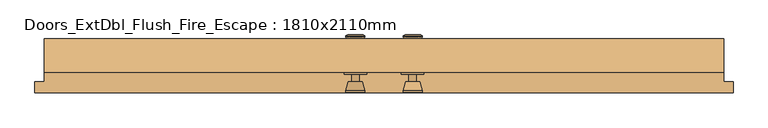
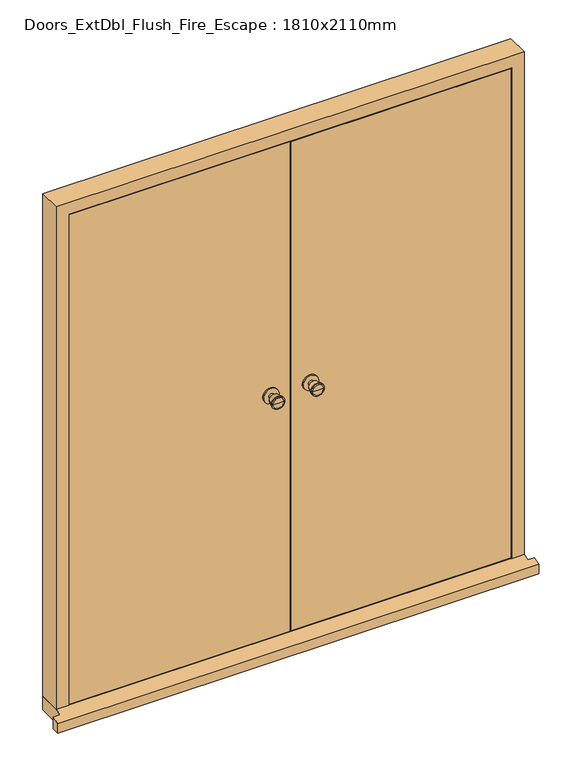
"""IFC4 building model written with IfcOpenShell, lengths in millimetres: door geometry, Doors_ExtDbl_Flush_Fire_Escape : 1810x2110mm."""

from ifc_helpers import new_model, si_unit, point, frame, frame_2d, origin, place, context, project, spatial, polyline, circle_curve, trimmed, segment, composite_curve, outline, extrude, faceted_brep, source, transform, mapped, element, save
from ifc_brep_helpers import plane_surface, cylinder_surface, revolved_surface, advanced_brep


def doors_extdbl_flush_fire_escape_1810x2110mm_d119a109(model_context):
    return source(origin(), model_context, "Body", "SolidModel", [
        advanced_brep(
        [(-76.5, -89.0, 1050.0), (-66.5, -89.0, 1050.0), (-86.5, -89.0, 1050.0), (-96.9758676, -138.0, 1050.0), (-56.0241324, -138.0, 1050.0), (-76.5, -138.0, 1050.0), (-101.5, -136.1721319, 1050.0), (-51.5, -136.1721319, 1050.0), (-101.5, -132.7084537, 1050.0), (-51.5, -132.7084537, 1050.0), (-95.136236, -108.0, 1050.0), (-57.863764, -108.0, 1050.0), (-86.5, -108.0, 1050.0), (-66.5, -108.0, 1050.0)],
        [
            (0, 1),
            (1, 2, circle_curve(frame((-76.5, -89.0, 1050.0), z_axis=(0.0, 1.0, 0.0), x_axis=(1.0, 0.0, 0.0)), 10.0)),
            (2, 0),
            (2, 1, circle_curve(frame((-76.5, -89.0, 1050.0), z_axis=(0.0, 1.0, 0.0), x_axis=(1.0, 0.0, 0.0)), 10.0)),
            (3, 4, circle_curve(frame((-76.5, -138.0, 1050.0), z_axis=(0.0, -1.0, 0.0), x_axis=(1.0, 0.0, 0.0)), 20.4758676)),
            (4, 5),
            (5, 3),
            (4, 3, circle_curve(frame((-76.5, -138.0, 1050.0), z_axis=(0.0, -1.0, 0.0), x_axis=(1.0, 0.0, 0.0)), 20.4758676)),
            (6, 7, circle_curve(frame((-76.5, -136.1721319, 1050.0), z_axis=(0.0, -1.0, 0.0), x_axis=(1.0, 0.0, 0.0)), 25.0)),
            (7, 4),
            (3, 6),
            (7, 6, circle_curve(frame((-76.5, -136.1721319, 1050.0), z_axis=(0.0, -1.0, 0.0), x_axis=(1.0, 0.0, 0.0)), 25.0)),
            (8, 9, circle_curve(frame((-76.5, -132.7084537, 1050.0), z_axis=(0.0, -1.0, 0.0), x_axis=(1.0, 0.0, 0.0)), 25.0)),
            (9, 7),
            (6, 8),
            (9, 8, circle_curve(frame((-76.5, -132.7084537, 1050.0), z_axis=(0.0, -1.0, 0.0), x_axis=(1.0, 0.0, 0.0)), 25.0)),
            (10, 11, circle_curve(frame((-76.5, -108.0, 1050.0), z_axis=(0.0, -1.0, 0.0), x_axis=(1.0, 0.0, 0.0)), 18.636236)),
            (11, 9),
            (8, 10),
            (11, 10, circle_curve(frame((-76.5, -108.0, 1050.0), z_axis=(0.0, -1.0, 0.0), x_axis=(1.0, 0.0, 0.0)), 18.636236)),
            (12, 13, circle_curve(frame((-76.5, -108.0, 1050.0), z_axis=(0.0, -1.0, 0.0), x_axis=(1.0, 0.0, 0.0)), 10.0)),
            (13, 11),
            (10, 12),
            (13, 12, circle_curve(frame((-76.5, -108.0, 1050.0), z_axis=(0.0, -1.0, 0.0), x_axis=(1.0, 0.0, 0.0)), 10.0)),
            (1, 13),
            (12, 2),
        ],
        [
            plane_surface(frame((-76.5, -89.0, 1050.0), z_axis=(0.0, 1.0, 0.0), x_axis=(1.0, 0.0, 0.0))),
            plane_surface(frame((-76.5, -138.0, 1050.0), z_axis=(0.0, -1.0, 0.0), x_axis=(1.0, 0.0, 0.0))),
            revolved_surface(polyline([(-56.0241324, -138.0, 1050.0), (-51.5, -136.1721319, 1050.0)]), (-76.5, -89.0, 1050.0), (0.0, 1.0, 0.0)),
            cylinder_surface(frame((-76.5, -89.0, 1050.0), z_axis=(0.0, 1.0, 0.0), x_axis=(1.0, 0.0, 0.0)), 25.0),
            revolved_surface(polyline([(-51.5, -132.7084537, 1050.0), (-57.863764, -108.0, 1050.0)]), (-76.5, -89.0, 1050.0), (0.0, 1.0, 0.0)),
            plane_surface(frame((-76.5, -108.0, 1050.0), z_axis=(0.0, 1.0, 0.0), x_axis=(1.0, 0.0, 0.0))),
            cylinder_surface(frame((-76.5, -89.0, 1050.0), z_axis=(0.0, 1.0, 0.0), x_axis=(1.0, 0.0, 0.0)), 10.0),
        ],
        [
            (0, [[1, 2, 3]]),
            (0, [[-3, 4, -1]]),
            (1, [[5, 6, 7]]),
            (1, [[8, -7, -6]]),
            (2, [[9, 10, -5, 11]]),
            (2, [[12, -11, -8, -10]]),
            (3, [[13, 14, -9, 15]]),
            (3, [[16, -15, -12, -14]]),
            (4, [[17, 18, -13, 19]]),
            (4, [[20, -19, -16, -18]]),
            (5, [[21, 22, -17, 23]]),
            (5, [[24, -23, -20, -22]]),
            (6, [[-2, 25, -21, 26]]),
            (6, [[-4, -26, -24, -25]]),
        ],
    ),
        extrude(outline(composite_curve([segment(trimmed(circle_curve(frame_2d((1050.0, -76.5)), 30.0), [point((1050.0, -46.5))], [point((1050.0, -106.5))], False, "CARTESIAN"), True, "CONTINUOUS"), segment(trimmed(circle_curve(frame_2d((1050.0, -76.5)), 30.0), [point((1050.0, -106.5))], [point((1050.0, -46.5))], False, "CARTESIAN"), True, "CONTINUOUS")], self_intersect=False)), frame((0.0, -89.0, 0.0), z_axis=(0.0, 1.0, 0.0), x_axis=(0.0, 0.0, 1.0)), (0.0, 0.0, 1.0), 6.0),
        advanced_brep(
        [(-76.5, -33.0, 1050.0), (-86.5, -33.0, 1050.0), (-66.5, -33.0, 1050.0), (-96.9758676, 16.0, 1050.0), (-76.5, 16.0, 1050.0), (-56.0241324, 16.0, 1050.0), (-101.5, 14.1721319, 1050.0), (-51.5, 14.1721319, 1050.0), (-101.5, 10.7084537, 1050.0), (-51.5, 10.7084537, 1050.0), (-95.136236, -14.0, 1050.0), (-57.863764, -14.0, 1050.0), (-86.5, -14.0, 1050.0), (-66.5, -14.0, 1050.0)],
        [
            (0, 1),
            (1, 2, circle_curve(frame((-76.5, -33.0, 1050.0), z_axis=(0.0, -1.0, 0.0), x_axis=(1.0, 0.0, 0.0)), 10.0)),
            (2, 0),
            (2, 1, circle_curve(frame((-76.5, -33.0, 1050.0), z_axis=(0.0, -1.0, 0.0), x_axis=(1.0, 0.0, 0.0)), 10.0)),
            (3, 4),
            (4, 5),
            (5, 3, circle_curve(frame((-76.5, 16.0, 1050.0), z_axis=(0.0, 1.0, 0.0), x_axis=(1.0, 0.0, 0.0)), 20.4758676)),
            (3, 5, circle_curve(frame((-76.5, 16.0, 1050.0), z_axis=(0.0, 1.0, 0.0), x_axis=(1.0, 0.0, 0.0)), 20.4758676)),
            (6, 3),
            (5, 7),
            (7, 6, circle_curve(frame((-76.5, 14.1721319, 1050.0), z_axis=(0.0, 1.0, 0.0), x_axis=(1.0, 0.0, 0.0)), 25.0)),
            (6, 7, circle_curve(frame((-76.5, 14.1721319, 1050.0), z_axis=(0.0, 1.0, 0.0), x_axis=(1.0, 0.0, 0.0)), 25.0)),
            (8, 6),
            (7, 9),
            (9, 8, circle_curve(frame((-76.5, 10.7084537, 1050.0), z_axis=(0.0, 1.0, 0.0), x_axis=(1.0, 0.0, 0.0)), 25.0)),
            (8, 9, circle_curve(frame((-76.5, 10.7084537, 1050.0), z_axis=(0.0, 1.0, 0.0), x_axis=(1.0, 0.0, 0.0)), 25.0)),
            (10, 8),
            (9, 11),
            (11, 10, circle_curve(frame((-76.5, -14.0, 1050.0), z_axis=(0.0, 1.0, 0.0), x_axis=(1.0, 0.0, 0.0)), 18.636236)),
            (10, 11, circle_curve(frame((-76.5, -14.0, 1050.0), z_axis=(0.0, 1.0, 0.0), x_axis=(1.0, 0.0, 0.0)), 18.636236)),
            (12, 10),
            (11, 13),
            (13, 12, circle_curve(frame((-76.5, -14.0, 1050.0), z_axis=(0.0, 1.0, 0.0), x_axis=(1.0, 0.0, 0.0)), 10.0)),
            (12, 13, circle_curve(frame((-76.5, -14.0, 1050.0), z_axis=(0.0, 1.0, 0.0), x_axis=(1.0, 0.0, 0.0)), 10.0)),
            (1, 12),
            (13, 2),
        ],
        [
            plane_surface(frame((-76.5, -33.0, 1050.0), z_axis=(0.0, -1.0, 0.0), x_axis=(1.0, 0.0, 0.0))),
            plane_surface(frame((-76.5, 16.0, 1050.0), z_axis=(0.0, 1.0, 0.0), x_axis=(1.0, 0.0, 0.0))),
            revolved_surface(polyline([(-56.0241324, 16.0, 1050.0), (-51.5, 14.1721319, 1050.0)]), (-76.5, -33.0, 1050.0), (0.0, -1.0, 0.0)),
            cylinder_surface(frame((-76.5, -33.0, 1050.0), z_axis=(0.0, -1.0, 0.0), x_axis=(1.0, 0.0, 0.0)), 25.0),
            revolved_surface(polyline([(-51.5, 10.7084537, 1050.0), (-57.863764, -14.0, 1050.0)]), (-76.5, -33.0, 1050.0), (0.0, -1.0, 0.0)),
            plane_surface(frame((-76.5, -14.0, 1050.0), z_axis=(0.0, -1.0, 0.0), x_axis=(1.0, 0.0, 0.0))),
            cylinder_surface(frame((-76.5, -33.0, 1050.0), z_axis=(0.0, -1.0, 0.0), x_axis=(1.0, 0.0, 0.0)), 10.0),
        ],
        [
            (0, [[1, 2, 3]]),
            (0, [[-3, 4, -1]]),
            (1, [[5, 6, 7]]),
            (1, [[-6, -5, 8]]),
            (2, [[9, -7, 10, 11]]),
            (2, [[-10, -8, -9, 12]]),
            (3, [[13, -11, 14, 15]]),
            (3, [[-14, -12, -13, 16]]),
            (4, [[17, -15, 18, 19]]),
            (4, [[-18, -16, -17, 20]]),
            (5, [[21, -19, 22, 23]]),
            (5, [[-22, -20, -21, 24]]),
            (6, [[25, -23, 26, -2]]),
            (6, [[-26, -24, -25, -4]]),
        ],
    ),
        extrude(outline(composite_curve([segment(trimmed(circle_curve(frame_2d((1050.0, -76.5)), 30.0), [point((1050.0, -46.5))], [point((1050.0, -106.5))], False, "CARTESIAN"), True, "CONTINUOUS"), segment(trimmed(circle_curve(frame_2d((1050.0, -76.5)), 30.0), [point((1050.0, -106.5))], [point((1050.0, -46.5))], False, "CARTESIAN"), True, "CONTINUOUS")], self_intersect=False)), frame((0.0, -39.0, 0.0), z_axis=(0.0, 1.0, 0.0), x_axis=(0.0, 0.0, 1.0)), (0.0, 0.0, 1.0), 6.0),
        advanced_brep(
        [(76.5, -89.0, 1050.0), (86.5, -89.0, 1050.0), (66.5, -89.0, 1050.0), (96.9758676, -138.0, 1050.0), (76.5, -138.0, 1050.0), (56.0241324, -138.0, 1050.0), (101.5, -136.1721319, 1050.0), (51.5, -136.1721319, 1050.0), (101.5, -132.7084537, 1050.0), (51.5, -132.7084537, 1050.0), (95.136236, -108.0, 1050.0), (57.863764, -108.0, 1050.0), (86.5, -108.0, 1050.0), (66.5, -108.0, 1050.0)],
        [
            (0, 1),
            (1, 2, circle_curve(frame((76.5, -89.0, 1050.0), z_axis=(0.0, 1.0, 0.0), x_axis=(-1.0, 0.0, 0.0)), 10.0)),
            (2, 0),
            (2, 1, circle_curve(frame((76.5, -89.0, 1050.0), z_axis=(0.0, 1.0, 0.0), x_axis=(-1.0, 0.0, 0.0)), 10.0)),
            (3, 4),
            (4, 5),
            (5, 3, circle_curve(frame((76.5, -138.0, 1050.0), z_axis=(0.0, -1.0, 0.0), x_axis=(-1.0, 0.0, 0.0)), 20.4758676)),
            (3, 5, circle_curve(frame((76.5, -138.0, 1050.0), z_axis=(0.0, -1.0, 0.0), x_axis=(-1.0, 0.0, 0.0)), 20.4758676)),
            (6, 3),
            (5, 7),
            (7, 6, circle_curve(frame((76.5, -136.1721319, 1050.0), z_axis=(0.0, -1.0, 0.0), x_axis=(-1.0, 0.0, 0.0)), 25.0)),
            (6, 7, circle_curve(frame((76.5, -136.1721319, 1050.0), z_axis=(0.0, -1.0, 0.0), x_axis=(-1.0, 0.0, 0.0)), 25.0)),
            (8, 6),
            (7, 9),
            (9, 8, circle_curve(frame((76.5, -132.7084537, 1050.0), z_axis=(0.0, -1.0, 0.0), x_axis=(-1.0, 0.0, 0.0)), 25.0)),
            (8, 9, circle_curve(frame((76.5, -132.7084537, 1050.0), z_axis=(0.0, -1.0, 0.0), x_axis=(-1.0, 0.0, 0.0)), 25.0)),
            (10, 8),
            (9, 11),
            (11, 10, circle_curve(frame((76.5, -108.0, 1050.0), z_axis=(0.0, -1.0, 0.0), x_axis=(-1.0, 0.0, 0.0)), 18.636236)),
            (10, 11, circle_curve(frame((76.5, -108.0, 1050.0), z_axis=(0.0, -1.0, 0.0), x_axis=(-1.0, 0.0, 0.0)), 18.636236)),
            (12, 10),
            (11, 13),
            (13, 12, circle_curve(frame((76.5, -108.0, 1050.0), z_axis=(0.0, -1.0, 0.0), x_axis=(-1.0, 0.0, 0.0)), 10.0)),
            (12, 13, circle_curve(frame((76.5, -108.0, 1050.0), z_axis=(0.0, -1.0, 0.0), x_axis=(-1.0, 0.0, 0.0)), 10.0)),
            (1, 12),
            (13, 2),
        ],
        [
            plane_surface(frame((76.5, -89.0, 1050.0), z_axis=(0.0, 1.0, 0.0), x_axis=(-1.0, 0.0, 0.0))),
            plane_surface(frame((76.5, -138.0, 1050.0), z_axis=(0.0, -1.0, 0.0), x_axis=(-1.0, 0.0, 0.0))),
            revolved_surface(polyline([(56.0241324, -138.0, 1050.0), (51.5, -136.1721319, 1050.0)]), (76.5, -89.0, 1050.0), (0.0, 1.0, 0.0)),
            cylinder_surface(frame((76.5, -89.0, 1050.0), z_axis=(0.0, 1.0, 0.0), x_axis=(-1.0, 0.0, 0.0)), 25.0),
            revolved_surface(polyline([(51.5, -132.7084537, 1050.0), (57.863764, -108.0, 1050.0)]), (76.5, -89.0, 1050.0), (0.0, 1.0, 0.0)),
            plane_surface(frame((76.5, -108.0, 1050.0), z_axis=(0.0, 1.0, 0.0), x_axis=(-1.0, 0.0, 0.0))),
            cylinder_surface(frame((76.5, -89.0, 1050.0), z_axis=(0.0, 1.0, 0.0), x_axis=(-1.0, 0.0, 0.0)), 10.0),
        ],
        [
            (0, [[1, 2, 3]]),
            (0, [[-3, 4, -1]]),
            (1, [[5, 6, 7]]),
            (1, [[-6, -5, 8]]),
            (2, [[9, -7, 10, 11]]),
            (2, [[-10, -8, -9, 12]]),
            (3, [[13, -11, 14, 15]]),
            (3, [[-14, -12, -13, 16]]),
            (4, [[17, -15, 18, 19]]),
            (4, [[-18, -16, -17, 20]]),
            (5, [[21, -19, 22, 23]]),
            (5, [[-22, -20, -21, 24]]),
            (6, [[25, -23, 26, -2]]),
            (6, [[-26, -24, -25, -4]]),
        ],
    ),
        extrude(outline(composite_curve([segment(trimmed(circle_curve(frame_2d((1050.0, 76.5)), 30.0), [point((1050.0, 46.5))], [point((1050.0, 106.5))], False, "CARTESIAN"), True, "CONTINUOUS"), segment(trimmed(circle_curve(frame_2d((1050.0, 76.5)), 30.0), [point((1050.0, 106.5))], [point((1050.0, 46.5))], False, "CARTESIAN"), True, "CONTINUOUS")], self_intersect=False)), frame((0.0, -89.0, 0.0), z_axis=(0.0, 1.0, 0.0), x_axis=(0.0, 0.0, 1.0)), (0.0, 0.0, 1.0), 6.0),
        advanced_brep(
        [(76.5, -33.0, 1050.0), (66.5, -33.0, 1050.0), (86.5, -33.0, 1050.0), (96.9758676, 16.0, 1050.0), (56.0241324, 16.0, 1050.0), (76.5, 16.0, 1050.0), (101.5, 14.1721319, 1050.0), (51.5, 14.1721319, 1050.0), (101.5, 10.7084537, 1050.0), (51.5, 10.7084537, 1050.0), (95.136236, -14.0, 1050.0), (57.863764, -14.0, 1050.0), (86.5, -14.0, 1050.0), (66.5, -14.0, 1050.0)],
        [
            (0, 1),
            (1, 2, circle_curve(frame((76.5, -33.0, 1050.0), z_axis=(0.0, -1.0, 0.0), x_axis=(-1.0, 0.0, 0.0)), 10.0)),
            (2, 0),
            (2, 1, circle_curve(frame((76.5, -33.0, 1050.0), z_axis=(0.0, -1.0, 0.0), x_axis=(-1.0, 0.0, 0.0)), 10.0)),
            (3, 4, circle_curve(frame((76.5, 16.0, 1050.0), z_axis=(0.0, 1.0, 0.0), x_axis=(-1.0, 0.0, 0.0)), 20.4758676)),
            (4, 5),
            (5, 3),
            (4, 3, circle_curve(frame((76.5, 16.0, 1050.0), z_axis=(0.0, 1.0, 0.0), x_axis=(-1.0, 0.0, 0.0)), 20.4758676)),
            (6, 7, circle_curve(frame((76.5, 14.1721319, 1050.0), z_axis=(0.0, 1.0, 0.0), x_axis=(-1.0, 0.0, 0.0)), 25.0)),
            (7, 4),
            (3, 6),
            (7, 6, circle_curve(frame((76.5, 14.1721319, 1050.0), z_axis=(0.0, 1.0, 0.0), x_axis=(-1.0, 0.0, 0.0)), 25.0)),
            (8, 9, circle_curve(frame((76.5, 10.7084537, 1050.0), z_axis=(0.0, 1.0, 0.0), x_axis=(-1.0, 0.0, 0.0)), 25.0)),
            (9, 7),
            (6, 8),
            (9, 8, circle_curve(frame((76.5, 10.7084537, 1050.0), z_axis=(0.0, 1.0, 0.0), x_axis=(-1.0, 0.0, 0.0)), 25.0)),
            (10, 11, circle_curve(frame((76.5, -14.0, 1050.0), z_axis=(0.0, 1.0, 0.0), x_axis=(-1.0, 0.0, 0.0)), 18.636236)),
            (11, 9),
            (8, 10),
            (11, 10, circle_curve(frame((76.5, -14.0, 1050.0), z_axis=(0.0, 1.0, 0.0), x_axis=(-1.0, 0.0, 0.0)), 18.636236)),
            (12, 13, circle_curve(frame((76.5, -14.0, 1050.0), z_axis=(0.0, 1.0, 0.0), x_axis=(-1.0, 0.0, 0.0)), 10.0)),
            (13, 11),
            (10, 12),
            (13, 12, circle_curve(frame((76.5, -14.0, 1050.0), z_axis=(0.0, 1.0, 0.0), x_axis=(-1.0, 0.0, 0.0)), 10.0)),
            (1, 13),
            (12, 2),
        ],
        [
            plane_surface(frame((76.5, -33.0, 1050.0), z_axis=(0.0, -1.0, 0.0), x_axis=(-1.0, 0.0, 0.0))),
            plane_surface(frame((76.5, 16.0, 1050.0), z_axis=(0.0, 1.0, 0.0), x_axis=(-1.0, 0.0, 0.0))),
            revolved_surface(polyline([(56.0241324, 16.0, 1050.0), (51.5, 14.1721319, 1050.0)]), (76.5, -33.0, 1050.0), (0.0, -1.0, 0.0)),
            cylinder_surface(frame((76.5, -33.0, 1050.0), z_axis=(0.0, -1.0, 0.0), x_axis=(-1.0, 0.0, 0.0)), 25.0),
            revolved_surface(polyline([(51.5, 10.7084537, 1050.0), (57.863764, -14.0, 1050.0)]), (76.5, -33.0, 1050.0), (0.0, -1.0, 0.0)),
            plane_surface(frame((76.5, -14.0, 1050.0), z_axis=(0.0, -1.0, 0.0), x_axis=(-1.0, 0.0, 0.0))),
            cylinder_surface(frame((76.5, -33.0, 1050.0), z_axis=(0.0, -1.0, 0.0), x_axis=(-1.0, 0.0, 0.0)), 10.0),
        ],
        [
            (0, [[1, 2, 3]]),
            (0, [[-3, 4, -1]]),
            (1, [[5, 6, 7]]),
            (1, [[8, -7, -6]]),
            (2, [[9, 10, -5, 11]]),
            (2, [[12, -11, -8, -10]]),
            (3, [[13, 14, -9, 15]]),
            (3, [[16, -15, -12, -14]]),
            (4, [[17, 18, -13, 19]]),
            (4, [[20, -19, -16, -18]]),
            (5, [[21, 22, -17, 23]]),
            (5, [[24, -23, -20, -22]]),
            (6, [[-2, 25, -21, 26]]),
            (6, [[-4, -26, -24, -25]]),
        ],
    ),
        extrude(outline(composite_curve([segment(trimmed(circle_curve(frame_2d((1050.0, 76.5)), 30.0), [point((1050.0, 46.5))], [point((1050.0, 106.5))], False, "CARTESIAN"), True, "CONTINUOUS"), segment(trimmed(circle_curve(frame_2d((1050.0, 76.5)), 30.0), [point((1050.0, 106.5))], [point((1050.0, 46.5))], False, "CARTESIAN"), True, "CONTINUOUS")], self_intersect=False)), frame((0.0, -39.0, 0.0), z_axis=(0.0, 1.0, 0.0), x_axis=(0.0, 0.0, 1.0)), (0.0, 0.0, 1.0), 6.0),
        faceted_brep([(856.5, -83.0, 54.5), (856.5, -36.0, 54.5), (834.5, -36.0, 54.5), (834.5, 6.0, 54.5), (905.0, 6.0, 54.5), (905.0, -83.0, 54.5), (905.0, -83.0, 2110.0), (-905.0, -83.0, 2110.0), (-905.0, -83.0, 54.5), (-856.5, -83.0, 54.5), (-856.5, -83.0, 2061.5), (856.5, -83.0, 2061.5), (905.0, 6.0, 2110.0), (834.5, 6.0, 2039.5), (-834.5, 6.0, 2039.5), (-834.5, 6.0, 54.5), (-905.0, 6.0, 54.5), (-905.0, 6.0, 2110.0), (834.5, -36.0, 2039.5), (856.5, -36.0, 2061.5), (-856.5, -36.0, 2061.5), (-856.5, -36.0, 54.5), (-834.5, -36.0, 54.5), (-834.5, -36.0, 2039.5)], [[[0, 1, 2, 3, 4, 5]], [[5, 6, 7, 8, 9, 10, 11, 0]], [[4, 12, 6, 5]], [[3, 13, 14, 15, 16, 17, 12, 4]], [[2, 18, 13, 3]], [[1, 19, 20, 21, 22, 23, 18, 2]], [[0, 11, 19, 1]], [[10, 9, 21, 20]], [[9, 8, 16, 15, 22, 21]], [[17, 16, 8, 7]], [[23, 22, 15, 14]], [[12, 17, 7, 6]], [[18, 23, 14, 13]], [[11, 10, 20, 19]]]),
        faceted_brep([(930.0, -138.0, 0.0), (930.0, -108.0, 0.0), (930.0, -108.0, 47.2703282), (930.0, -138.0, 38.5947221), (-930.0, -138.0, 38.5947221), (-930.0, -108.0, 47.2703282), (-930.0, -108.0, 0.0), (-930.0, -138.0, 0.0), (-905.0, -108.0, 0.0), (-905.0, 6.0, 0.0), (905.0, 6.0, 0.0), (905.0, -108.0, 0.0), (905.0, -108.0, 47.2703282), (905.0, -83.0, 54.5), (-905.0, -83.0, 54.5), (-905.0, -108.0, 47.2703282), (905.0, 6.0, 54.5), (-905.0, 6.0, 54.5)], [[[0, 1, 2, 3]], [[4, 5, 6, 7]], [[7, 6, 8, 9, 10, 11, 1, 0]], [[3, 4, 7, 0]], [[3, 2, 12, 13, 14, 15, 5, 4]], [[14, 13, 16, 17]], [[17, 16, 10, 9]], [[15, 14, 17, 9, 8]], [[8, 6, 5, 15]], [[11, 10, 16, 13, 12]], [[12, 2, 1, 11]]]),
        extrude(outline(polyline([(1.5, -83.0), (1.5, -39.0), (853.5, -39.0), (853.5, -83.0), (1.5, -83.0)])), frame((0.0, 0.0, 58.5), z_axis=(0.0, 0.0, 1.0), x_axis=(1.0, 0.0, 0.0)), (0.0, 0.0, 1.0), 2000.0),
        extrude(outline(polyline([(-853.5, -83.0), (-853.5, -39.0), (-1.5, -39.0), (-1.5, -83.0), (-853.5, -83.0)])), frame((0.0, 0.0, 58.5), z_axis=(0.0, 0.0, 1.0), x_axis=(1.0, 0.0, 0.0)), (0.0, 0.0, 1.0), 2000.0),
    ])


if __name__ == "__main__":
    model = new_model("IFC4")
    model_context = context("Model", 3, world=origin())
    ifc_project = project(units=[si_unit("LENGTHUNIT", "METRE", prefix="MILLI")], contexts=[model_context])
    site = spatial("IfcSite", under=ifc_project)
    building = spatial("IfcBuilding", under=site)
    placement = place(None, origin())
    doors_extdbl_flush_fire_escape_1810x2110mm_shape = doors_extdbl_flush_fire_escape_1810x2110mm_d119a109(model_context)
    element("IfcDoor", 1, ObjectType="Doors_ExtDbl_Flush_Fire_Escape : 1810x2110mm", at=placement, inside=building, context=model_context, shape_type="MappedRepresentation", body=[
        mapped(doors_extdbl_flush_fire_escape_1810x2110mm_shape, transform((0.0, 0.0, 0.0), x_axis=(1.0, 0.0, 0.0), y_axis=(0.0, 1.0, 0.0), z_axis=(0.0, 0.0, 1.0))),
    ])
    save(model, "model.ifc")
